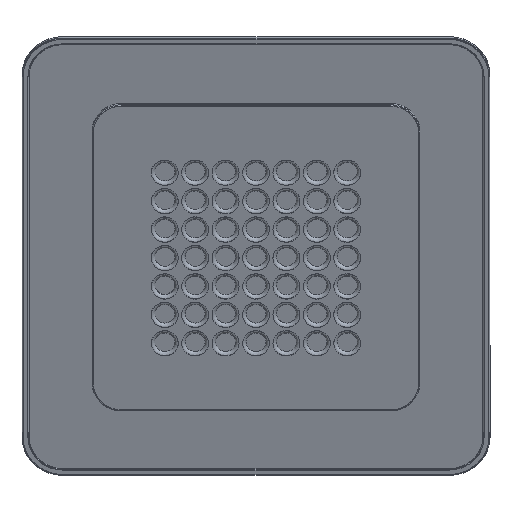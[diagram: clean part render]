
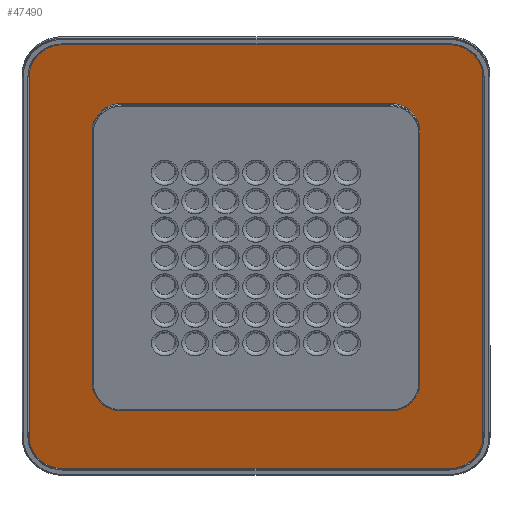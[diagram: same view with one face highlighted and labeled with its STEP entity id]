
A CAD part, front view. The second image highlights one B-rep face of the part: STEP entity #47490.
In plain terms, the highlighted planar face has unit normal (0, -0.934, -0.357).
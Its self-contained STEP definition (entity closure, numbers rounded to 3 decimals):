
#47381=CARTESIAN_POINT('',(-477.602,-61.757,-204.118));
#47382=DIRECTION('',(0.0,-0.934,-0.357));
#47383=DIRECTION('',(1.0,0.0,0.0));
#47384=AXIS2_PLACEMENT_3D('',#47381,#47382,#47383);
#47385=PLANE('',#47384);
#47386=CARTESIAN_POINT('',(-398.,-349.93,550.32));
#47387=VERTEX_POINT('',#47386);
#47388=CARTESIAN_POINT('',(-398.,-114.425,-66.233));
#47389=VERTEX_POINT('',#47388);
#47390=CARTESIAN_POINT('',(-398.,-349.93,550.32));
#47391=DIRECTION('',(0.,0.357,-0.934));
#47392=VECTOR('',#47391,660.);
#47393=LINE('',#47390,#47392);
#47394=EDGE_CURVE('',#47387,#47389,#47393,.T.);
#47395=ORIENTED_EDGE('',*,*,#47394,.T.);
#47396=CARTESIAN_POINT('',(-330.,-90.161,-129.756));
#47397=VERTEX_POINT('',#47396);
#47398=CARTESIAN_POINT('',(-330.,-114.425,-66.233));
#47399=DIRECTION('',(0.0,0.934,0.357));
#47400=DIRECTION('',(0.0,0.357,-0.934));
#47401=AXIS2_PLACEMENT_3D('',#47398,#47399,#47400);
#47402=CIRCLE('',#47401,68.);
#47403=EDGE_CURVE('',#47397,#47389,#47402,.T.);
#47404=ORIENTED_EDGE('',*,*,#47403,.F.);
#47405=CARTESIAN_POINT('',(330.,-90.161,-129.756));
#47406=VERTEX_POINT('',#47405);
#47407=CARTESIAN_POINT('',(-330.,-90.161,-129.756));
#47408=DIRECTION('',(1.0,0.0,0.0));
#47409=VECTOR('',#47408,660.);
#47410=LINE('',#47407,#47409);
#47411=EDGE_CURVE('',#47397,#47406,#47410,.T.);
#47412=ORIENTED_EDGE('',*,*,#47411,.T.);
#47413=CARTESIAN_POINT('',(398.,-114.425,-66.233));
#47414=VERTEX_POINT('',#47413);
#47415=CARTESIAN_POINT('',(330.,-114.425,-66.233));
#47416=DIRECTION('',(0.0,0.934,0.357));
#47417=DIRECTION('',(1.0,0.0,0.0));
#47418=AXIS2_PLACEMENT_3D('',#47415,#47416,#47417);
#47419=CIRCLE('',#47418,68.0);
#47420=EDGE_CURVE('',#47414,#47406,#47419,.T.);
#47421=ORIENTED_EDGE('',*,*,#47420,.F.);
#47422=CARTESIAN_POINT('',(398.,-349.93,550.32));
#47423=VERTEX_POINT('',#47422);
#47424=CARTESIAN_POINT('',(398.,-114.425,-66.233));
#47425=DIRECTION('',(0.,-0.357,0.934));
#47426=VECTOR('',#47425,660.);
#47427=LINE('',#47424,#47426);
#47428=EDGE_CURVE('',#47414,#47423,#47427,.T.);
#47429=ORIENTED_EDGE('',*,*,#47428,.T.);
#47430=CARTESIAN_POINT('',(330.,-374.194,613.844));
#47431=VERTEX_POINT('',#47430);
#47432=CARTESIAN_POINT('',(330.,-349.93,550.32));
#47433=DIRECTION('',(0.0,0.934,0.357));
#47434=DIRECTION('',(0.0,-0.357,0.934));
#47435=AXIS2_PLACEMENT_3D('',#47432,#47433,#47434);
#47436=CIRCLE('',#47435,68.);
#47437=EDGE_CURVE('',#47431,#47423,#47436,.T.);
#47438=ORIENTED_EDGE('',*,*,#47437,.F.);
#47439=CARTESIAN_POINT('',(-330.,-374.194,613.844));
#47440=VERTEX_POINT('',#47439);
#47441=CARTESIAN_POINT('',(330.,-374.194,613.844));
#47442=DIRECTION('',(-1.0,0.0,0.0));
#47443=VECTOR('',#47442,660.0);
#47444=LINE('',#47441,#47443);
#47445=EDGE_CURVE('',#47431,#47440,#47444,.T.);
#47446=ORIENTED_EDGE('',*,*,#47445,.T.);
#47447=CARTESIAN_POINT('',(-330.,-349.93,550.32));
#47448=DIRECTION('',(0.,0.934,0.357));
#47449=DIRECTION('',(-1.0,0.0,0.));
#47450=AXIS2_PLACEMENT_3D('',#47447,#47448,#47449);
#47451=CIRCLE('',#47450,68.0);
#47452=EDGE_CURVE('',#47387,#47440,#47451,.T.);
#47453=ORIENTED_EDGE('',*,*,#47452,.F.);
#47454=EDGE_LOOP('',(#47395,#47404,#47412,#47421,#47429,#47438,#47446,#47453));
#47455=FACE_OUTER_BOUND('',#47454,.T.);
#47456=CARTESIAN_POINT('',(-200.,-303.542,428.878));
#47457=VERTEX_POINT('',#47456);
#47458=CARTESIAN_POINT('',(200.,-303.542,428.878));
#47459=VERTEX_POINT('',#47458);
#47460=CARTESIAN_POINT('',(-200.,-303.542,428.878));
#47461=DIRECTION('',(1.0,0.0,0.0));
#47462=VECTOR('',#47461,400.0);
#47463=LINE('',#47460,#47462);
#47464=EDGE_CURVE('',#47457,#47459,#47463,.T.);
#47465=ORIENTED_EDGE('',*,*,#47464,.T.);
#47466=CARTESIAN_POINT('',(200.,-160.812,55.21));
#47467=VERTEX_POINT('',#47466);
#47468=CARTESIAN_POINT('',(200.,-160.812,55.21));
#47469=DIRECTION('',(0.0,-0.357,0.934));
#47470=VECTOR('',#47469,400.);
#47471=LINE('',#47468,#47470);
#47472=EDGE_CURVE('',#47467,#47459,#47471,.T.);
#47473=ORIENTED_EDGE('',*,*,#47472,.F.);
#47474=CARTESIAN_POINT('',(-200.,-160.812,55.21));
#47475=VERTEX_POINT('',#47474);
#47476=CARTESIAN_POINT('',(-200.,-160.812,55.21));
#47477=DIRECTION('',(1.0,0.0,0.0));
#47478=VECTOR('',#47477,400.0);
#47479=LINE('',#47476,#47478);
#47480=EDGE_CURVE('',#47475,#47467,#47479,.T.);
#47481=ORIENTED_EDGE('',*,*,#47480,.F.);
#47482=CARTESIAN_POINT('',(-200.,-303.542,428.878));
#47483=DIRECTION('',(0.0,0.357,-0.934));
#47484=VECTOR('',#47483,400.0);
#47485=LINE('',#47482,#47484);
#47486=EDGE_CURVE('',#47457,#47475,#47485,.T.);
#47487=ORIENTED_EDGE('',*,*,#47486,.F.);
#47488=EDGE_LOOP('',(#47465,#47473,#47481,#47487));
#47489=FACE_BOUND('',#47488,.T.);
#47490=ADVANCED_FACE('',(#47455,#47489),#47385,.T.);
